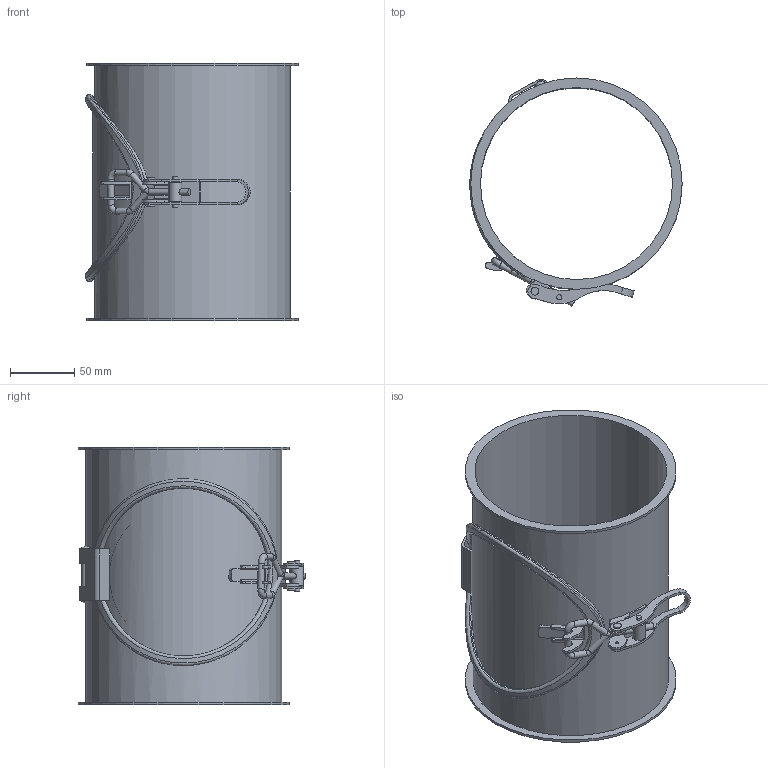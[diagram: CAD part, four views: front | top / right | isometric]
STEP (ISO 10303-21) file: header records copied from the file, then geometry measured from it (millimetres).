
FILE_DESCRIPTION((''),'2;1');
FILE_NAME('U:\Wolfgang\Marcel-3D\fertig\Kapitel 4\1511043.stp','2011-04-21T08:51:09',('TK1'),(''),'Autodesk Inventor 2010','Autodesk Inventor 2010','');
FILE_SCHEMA(('AUTOMOTIVE_DESIGN { 1 0 10303 214 1 1 1 1 }'));
Length unit declared in the file: millimetre
Products named in the file (13): 1511043 (Detailgenauigkeit1); 1511043-1; Verschluss1a; Verschluss1b; Verschluss1d; Verschluss1c; Verschluss1e; GelenkDeckel1c; Deckel; Deckel1b; GelenkDeckel1a; VerschlussDeckel1; dichtung
Assembly tree (13 placements, depth 3):
  1511043 (Detailgenauigkeit1)
    1511043-1
    Verschluss1a
    Verschluss1b
    Verschluss1d  x2
    Verschluss1c
    Verschluss1e
    GelenkDeckel1c
    Deckel
      Deckel1b
      GelenkDeckel1a
      VerschlussDeckel1
      dichtung
Bounding box: 164.73 x 176.87 x 200 mm (x, y, z)
Volume: 182929.2 mm3; surface area: 240837.1 mm2
Topology: 12 solids, 12 shells, 164 faces, 383 edges, 247 vertices
Faces by surface type: cylinder 77, plane 71, torus 9, bspline 5, sphere 2
Full cylindrical faces by diameter (mm): 2 x4, 4 x4, 5 x6, 6 x5, 6.2 x2, 10 x1, 115 x1, 130 x1, 135 x1, 145 x1, 149 x1, 152 x1, 164 x2
Entity records: 6644 total; most frequent: CARTESIAN_POINT 2762, DIRECTION 788, ORIENTED_EDGE 646, EDGE_CURVE 323, AXIS2_PLACEMENT_3D 316, VERTEX_POINT 230, EDGE_LOOP 225, FACE_OUTER_BOUND 157
